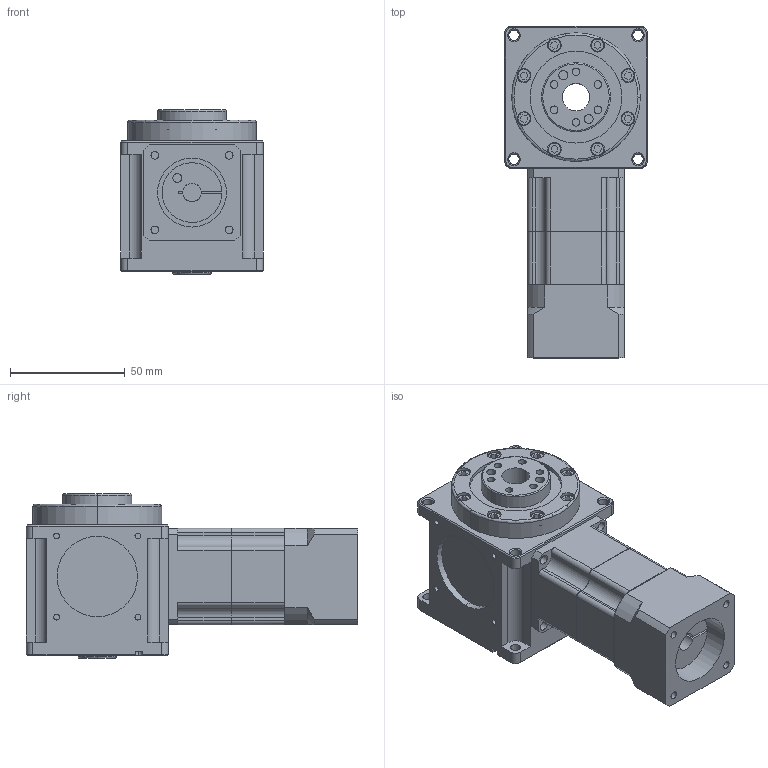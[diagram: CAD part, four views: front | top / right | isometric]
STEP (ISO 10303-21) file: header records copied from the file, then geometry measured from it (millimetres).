
FILE_DESCRIPTION (( 'STEP AP214' ), '1' );
FILE_NAME ('CCW062A-L2(24-100)-RF 8-30-46-M4.STEP', '2025-06-02T08:07:35', ( '微软用户' ), ( '微软中国' ), 'SwSTEP 2.0', 'SolidWorks 2024', '' );
FILE_SCHEMA (( 'AUTOMOTIVE_DESIGN' ));
Length unit declared in the file: millimetre
Products named in the file (3): CCW062A-002-RF箱体; 042-L2齿圈; CCW062A-L2(24-100)-RF 8-30-46-M4
Assembly tree (2 placements, depth 2):
  CCW062A-L2(24-100)-RF 8-30-46-M4
    CCW062A-002-RF箱体
    042-L2齿圈
Bounding box: 62 x 144.5 x 71.5 mm (x, y, z)
Volume: 327113.4 mm3; surface area: 52213.7 mm2
Topology: 2 solids, 2 shells, 514 faces, 1212 edges, 758 vertices
Faces by surface type: plane 240, cylinder 194, cone 72, torus 8
Entity records: 14974 total; most frequent: DIRECTION 2704, CARTESIAN_POINT 2669, ORIENTED_EDGE 2424, EDGE_CURVE 1212, AXIS2_PLACEMENT_3D 1009, VERTEX_POINT 758, LINE 686, VECTOR 686
